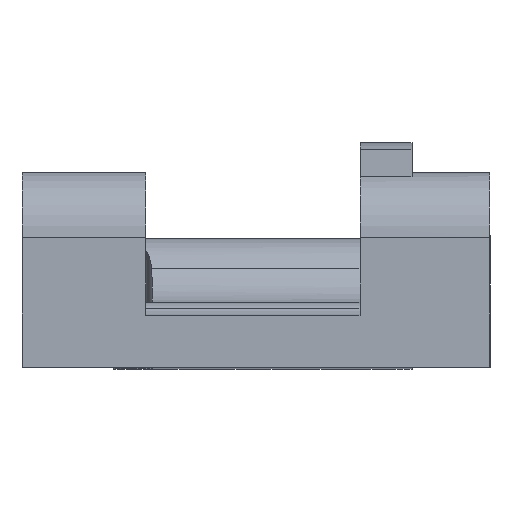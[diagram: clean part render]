
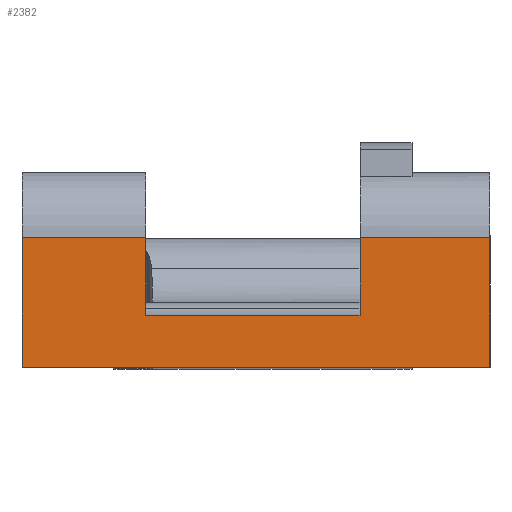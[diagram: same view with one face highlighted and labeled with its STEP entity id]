
A CAD part, top view. The second image highlights one B-rep face of the part: STEP entity #2382.
In plain terms, the highlighted planar face has unit normal (0, 0, 1).
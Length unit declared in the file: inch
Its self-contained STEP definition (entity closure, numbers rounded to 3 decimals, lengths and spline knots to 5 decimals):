
#9 = DIRECTION ( 'NONE',  ( 0., -1., 0. ) ) ;
#21 = VERTEX_POINT ( 'NONE', #1139 ) ;
#69 = DIRECTION ( 'NONE',  ( 1., 0., 0. ) ) ;
#70 = LINE ( 'NONE', #951, #447 ) ;
#71 = DIRECTION ( 'NONE',  ( -1., 0., 0. ) ) ;
#93 = VECTOR ( 'NONE', #69, 39.37008 ) ;
#111 = CARTESIAN_POINT ( 'NONE',  ( -0.33465, 0.15748, 0. ) ) ;
#117 = VERTEX_POINT ( 'NONE', #1163 ) ;
#156 = LINE ( 'NONE', #1697, #93 ) ;
#179 = VERTEX_POINT ( 'NONE', #828 ) ;
#277 = CARTESIAN_POINT ( 'NONE',  ( 0.31496, 0.15748, 0. ) ) ;
#325 = DIRECTION ( 'NONE',  ( 0., -1., 0. ) ) ;
#425 = DIRECTION ( 'NONE',  ( 0., 0., -1. ) ) ;
#444 = ORIENTED_EDGE ( 'NONE', *, *, #723, .T. ) ;
#447 = VECTOR ( 'NONE', #1313, 39.37008 ) ;
#484 = EDGE_CURVE ( 'NONE', #1376, #1256, #1149, .T. ) ;
#518 = CARTESIAN_POINT ( 'NONE',  ( 0.31496, 0.3937, 0. ) ) ;
#527 = LINE ( 'NONE', #599, #780 ) ;
#535 = VECTOR ( 'NONE', #744, 39.37008 ) ;
#557 = CARTESIAN_POINT ( 'NONE',  ( -0.70866, 0.15748, 0. ) ) ;
#575 = ORIENTED_EDGE ( 'NONE', *, *, #1209, .F. ) ;
#599 = CARTESIAN_POINT ( 'NONE',  ( 0.31496, 0.15748, 0. ) ) ;
#694 = EDGE_CURVE ( 'NONE', #985, #1583, #527, .T. ) ;
#723 = EDGE_CURVE ( 'NONE', #117, #1376, #731, .T. ) ;
#731 = LINE ( 'NONE', #1355, #1957 ) ;
#744 = DIRECTION ( 'NONE',  ( 0., -1., 0. ) ) ;
#757 = LINE ( 'NONE', #1474, #1360 ) ;
#780 = VECTOR ( 'NONE', #2045, 39.37008 ) ;
#790 = PLANE ( 'NONE',  #1632 ) ;
#806 = VECTOR ( 'NONE', #9, 39.37008 ) ;
#828 = CARTESIAN_POINT ( 'NONE',  ( 0.70866, 0.3937, 0. ) ) ;
#951 = CARTESIAN_POINT ( 'NONE',  ( 0.70866, 0.15748, 0. ) ) ;
#973 = DIRECTION ( 'NONE',  ( -1., 0., 0. ) ) ;
#974 = ORIENTED_EDGE ( 'NONE', *, *, #2291, .F. ) ;
#985 = VERTEX_POINT ( 'NONE', #518 ) ;
#1052 = ORIENTED_EDGE ( 'NONE', *, *, #1064, .F. ) ;
#1064 = EDGE_CURVE ( 'NONE', #117, #1944, #757, .T. ) ;
#1139 = CARTESIAN_POINT ( 'NONE',  ( 0.70866, 0., 0. ) ) ;
#1149 = LINE ( 'NONE', #557, #806 ) ;
#1152 = LINE ( 'NONE', #1410, #1736 ) ;
#1163 = CARTESIAN_POINT ( 'NONE',  ( -0.33465, 0.3937, 0. ) ) ;
#1209 = EDGE_CURVE ( 'NONE', #985, #179, #1152, .T. ) ;
#1256 = VERTEX_POINT ( 'NONE', #1949 ) ;
#1269 = LINE ( 'NONE', #2384, #535 ) ;
#1311 = ORIENTED_EDGE ( 'NONE', *, *, #484, .T. ) ;
#1313 = DIRECTION ( 'NONE',  ( 1., 0., 0. ) ) ;
#1323 = EDGE_CURVE ( 'NONE', #179, #21, #1269, .T. ) ;
#1336 = CARTESIAN_POINT ( 'NONE',  ( 0.70866, 0.15748, 0. ) ) ;
#1355 = CARTESIAN_POINT ( 'NONE',  ( -0.35433, 0.3937, 0. ) ) ;
#1360 = VECTOR ( 'NONE', #325, 39.37008 ) ;
#1376 = VERTEX_POINT ( 'NONE', #2199 ) ;
#1378 = EDGE_CURVE ( 'NONE', #1256, #21, #156, .T. ) ;
#1410 = CARTESIAN_POINT ( 'NONE',  ( 0.35433, 0.3937, 0. ) ) ;
#1474 = CARTESIAN_POINT ( 'NONE',  ( -0.33465, 0.3937, 0. ) ) ;
#1583 = VERTEX_POINT ( 'NONE', #277 ) ;
#1632 = AXIS2_PLACEMENT_3D ( 'NONE', #1336, #425, #973 ) ;
#1657 = ORIENTED_EDGE ( 'NONE', *, *, #694, .T. ) ;
#1697 = CARTESIAN_POINT ( 'NONE',  ( 0.70866, 0., 0. ) ) ;
#1736 = VECTOR ( 'NONE', #2346, 39.37008 ) ;
#1944 = VERTEX_POINT ( 'NONE', #111 ) ;
#1949 = CARTESIAN_POINT ( 'NONE',  ( -0.70866, 0., 0. ) ) ;
#1957 = VECTOR ( 'NONE', #71, 39.37008 ) ;
#1985 = ORIENTED_EDGE ( 'NONE', *, *, #1378, .T. ) ;
#2045 = DIRECTION ( 'NONE',  ( 0., -1., 0. ) ) ;
#2166 = FACE_OUTER_BOUND ( 'NONE', #2260, .T. ) ;
#2199 = CARTESIAN_POINT ( 'NONE',  ( -0.70866, 0.3937, 0. ) ) ;
#2260 = EDGE_LOOP ( 'NONE', ( #974, #1052, #444, #1311, #1985, #2269, #575, #1657 ) ) ;
#2269 = ORIENTED_EDGE ( 'NONE', *, *, #1323, .F. ) ;
#2291 = EDGE_CURVE ( 'NONE', #1944, #1583, #70, .T. ) ;
#2346 = DIRECTION ( 'NONE',  ( 1., 0., 0. ) ) ;
#2382 = ADVANCED_FACE ( 'NONE', ( #2166 ), #790, .F. ) ;
#2384 = CARTESIAN_POINT ( 'NONE',  ( 0.70866, 0.15748, 0. ) ) ;
